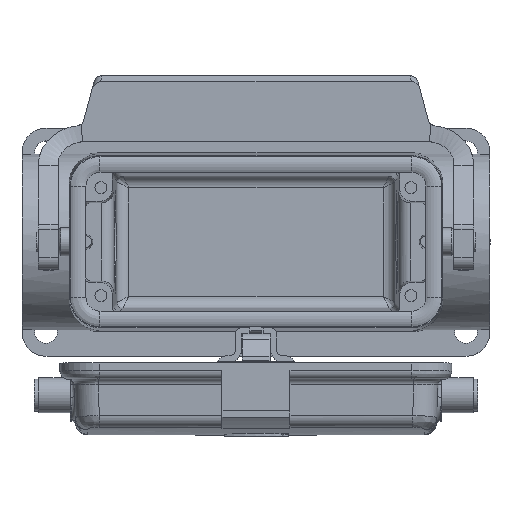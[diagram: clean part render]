
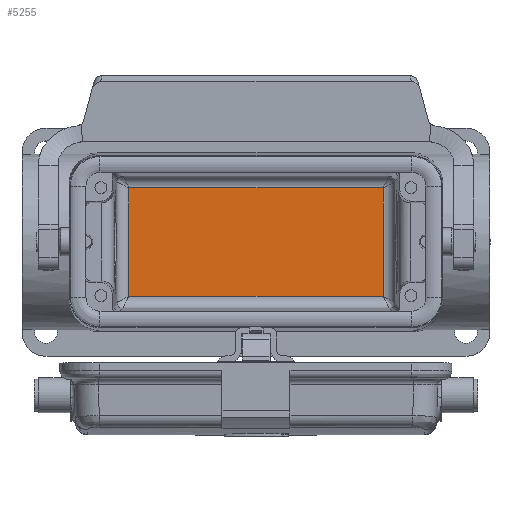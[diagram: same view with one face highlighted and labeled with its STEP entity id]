
A CAD part, top view. The second image highlights one B-rep face of the part: STEP entity #5255.
In plain terms, the highlighted planar face has unit normal (0, 0, 1).
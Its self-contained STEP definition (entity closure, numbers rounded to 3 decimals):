
#3992=FACE_OUTER_BOUND('',#6601,.T.);
#5255=ADVANCED_FACE('',(#3992),#5808,.F.);
#5808=PLANE('',#16542);
#6601=EDGE_LOOP('',(#8283,#8284,#8285,#8286));
#8283=ORIENTED_EDGE('',*,*,#12226,.T.);
#8284=ORIENTED_EDGE('',*,*,#12211,.T.);
#8285=ORIENTED_EDGE('',*,*,#12216,.T.);
#8286=ORIENTED_EDGE('',*,*,#12233,.T.);
#10918=VERTEX_POINT('',#21782);
#10919=VERTEX_POINT('',#21815);
#10923=VERTEX_POINT('',#21824);
#10927=VERTEX_POINT('',#21910);
#12211=EDGE_CURVE('',#10919,#10918,#13764,.T.);
#12216=EDGE_CURVE('',#10918,#10923,#13766,.T.);
#12226=EDGE_CURVE('',#10927,#10919,#13769,.T.);
#12233=EDGE_CURVE('',#10923,#10927,#13771,.T.);
#13764=LINE('',#21814,#14791);
#13766=LINE('',#21825,#14793);
#13769=LINE('',#21913,#14796);
#13771=LINE('',#21937,#14798);
#14791=VECTOR('',#18246,1.);
#14793=VECTOR('',#18256,1.);
#14796=VECTOR('',#18275,1.);
#14798=VECTOR('',#18289,1.);
#16542=AXIS2_PLACEMENT_3D('',#22292,#18580,#18581);
#18246=DIRECTION('',(0.,1.,0.));
#18256=DIRECTION('',(-1.,0.,0.));
#18275=DIRECTION('',(1.,0.,0.));
#18289=DIRECTION('',(0.,-1.,0.));
#18580=DIRECTION('',(0.,0.,-1.));
#18581=DIRECTION('',(-1.,0.,0.));
#21782=CARTESIAN_POINT('',(31.804,13.567,-65.25));
#21814=CARTESIAN_POINT('',(31.804,15.,-65.25));
#21815=CARTESIAN_POINT('',(31.804,-13.567,-65.25));
#21824=CARTESIAN_POINT('',(-31.804,13.567,-65.25));
#21825=CARTESIAN_POINT('',(34.75,13.567,-65.25));
#21910=CARTESIAN_POINT('',(-31.804,-13.567,-65.25));
#21913=CARTESIAN_POINT('',(34.75,-13.567,-65.25));
#21937=CARTESIAN_POINT('',(-31.804,-15.,-65.25));
#22292=CARTESIAN_POINT('',(34.75,-17.75,-65.25));
